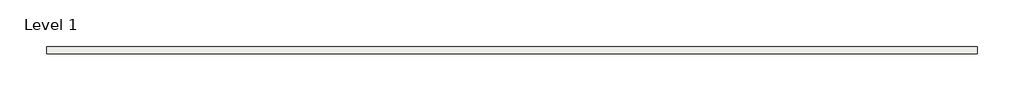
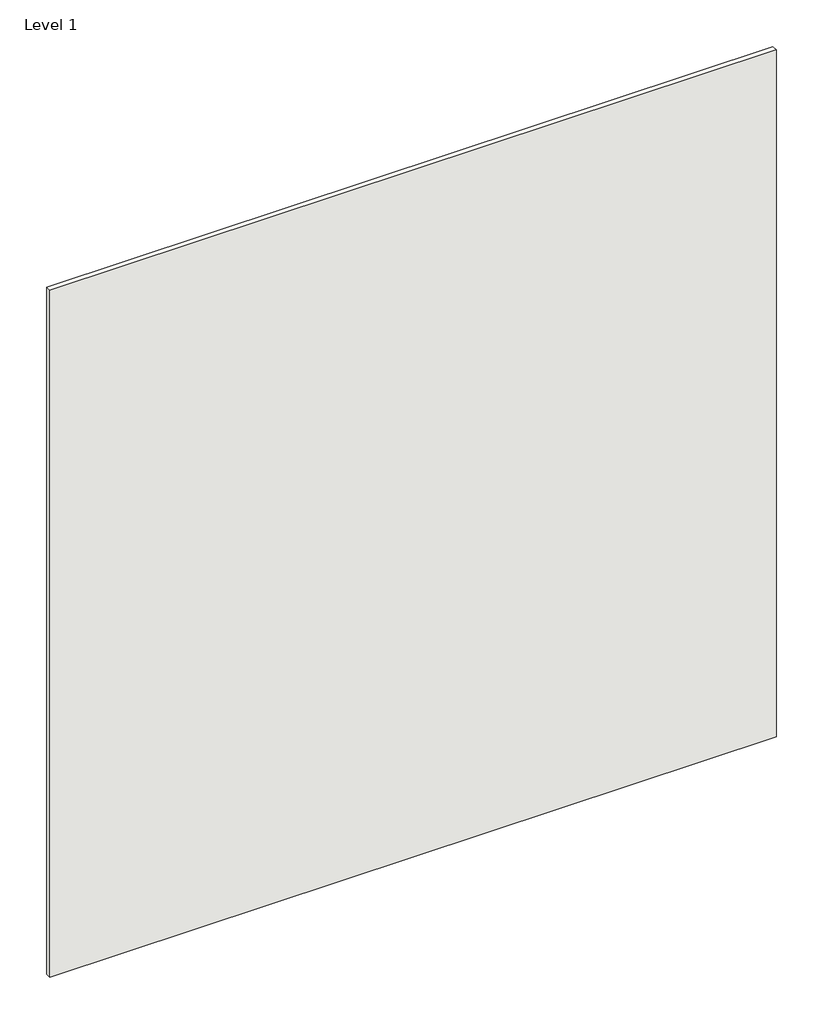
# One storey: 1 covering.
"""IFC4 building model written with IfcOpenShell, lengths in millimetres."""

from ifc_helpers import new_model, si_unit, origin, origin_with_axes, place, context, project, spatial, polyline, outline, extrude, element, save

model = new_model("IFC4")

# Units and contexts
model_context = context("Model", 3, world=origin())
ifc_project = project(units=[si_unit("LENGTHUNIT", "METRE", prefix="MILLI")], contexts=[model_context])

# Site, building, storey
site = spatial("IfcSite", under=ifc_project)
building = spatial("IfcBuilding", under=site)
storey = spatial("IfcBuildingStorey", under=building, Name="Level 1", Elevation=0.0)

# Covering
placement = place(None, origin())
element("IfcCovering", 1, ObjectType="LOVE TILES-SENSE-GARDEN DECORATION-35x70-MATT RECTIFIED-GREEN", at=placement, inside=storey, context=model_context, shape_type="SweptSolid", body=[
    extrude(outline(polyline([(28997.0720096, -26211.5513387), (27997.0720096, -26211.5513387), (27997.0720096, -26203.5513387), (28997.0720096, -26203.5513387), (28997.0720096, -26211.5513387)])), origin_with_axes(), (0.0, 0.0, 1.0), 1000.0),
])

save(model, "model.ifc")
